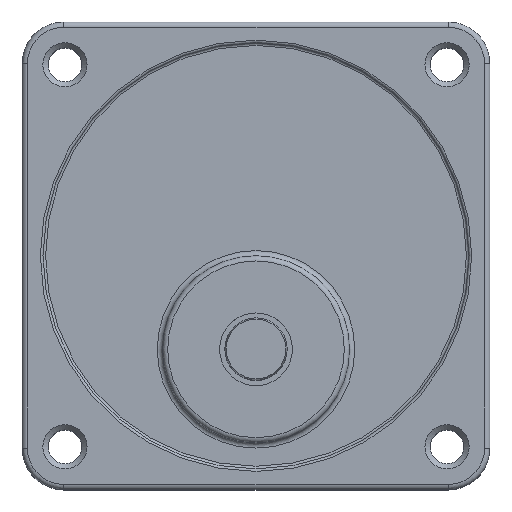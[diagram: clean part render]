
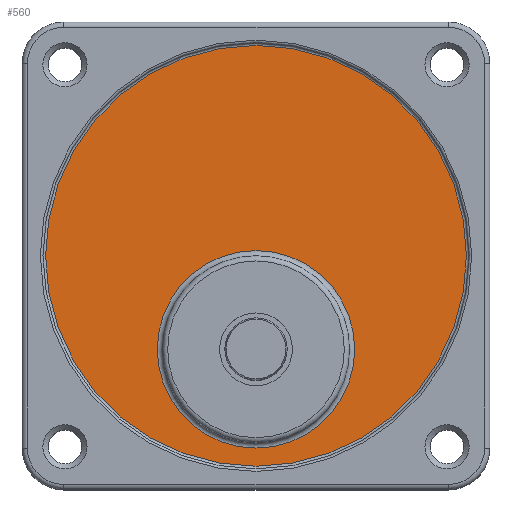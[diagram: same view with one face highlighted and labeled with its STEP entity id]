
A CAD part, top view. The second image highlights one B-rep face of the part: STEP entity #560.
In plain terms, the highlighted planar face has unit normal (0, 0, 1).
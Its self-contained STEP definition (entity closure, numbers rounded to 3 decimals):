
#509=CARTESIAN_POINT('',(64.,27.,41.));
#510=VERTEX_POINT('',#509);
#511=CARTESIAN_POINT('',(45.,27.0,41.));
#512=DIRECTION('',(0.0,0.0,1.0));
#513=DIRECTION('',(-1.0,0.0,0.0));
#514=AXIS2_PLACEMENT_3D('',#511,#512,#513);
#515=CIRCLE('',#514,19.0);
#516=EDGE_CURVE('',#510,#510,#515,.T.);
#541=CARTESIAN_POINT('',(45.,45.0,41.));
#542=DIRECTION('',(0.0,0.0,-1.0));
#543=DIRECTION('',(-1.0,0.0,0.0));
#544=AXIS2_PLACEMENT_3D('',#541,#542,#543);
#545=PLANE('',#544);
#546=CARTESIAN_POINT('',(85.5,45.,41.));
#547=VERTEX_POINT('',#546);
#548=CARTESIAN_POINT('',(45.,45.0,41.));
#549=DIRECTION('',(0.0,0.0,-1.0));
#550=DIRECTION('',(-1.0,0.0,0.0));
#551=AXIS2_PLACEMENT_3D('',#548,#549,#550);
#552=CIRCLE('',#551,40.5);
#553=EDGE_CURVE('',#547,#547,#552,.T.);
#554=ORIENTED_EDGE('',*,*,#553,.F.);
#555=EDGE_LOOP('',(#554));
#556=FACE_OUTER_BOUND('',#555,.T.);
#557=ORIENTED_EDGE('',*,*,#516,.F.);
#558=EDGE_LOOP('',(#557));
#559=FACE_BOUND('',#558,.T.);
#560=ADVANCED_FACE('',(#556,#559),#545,.F.);
